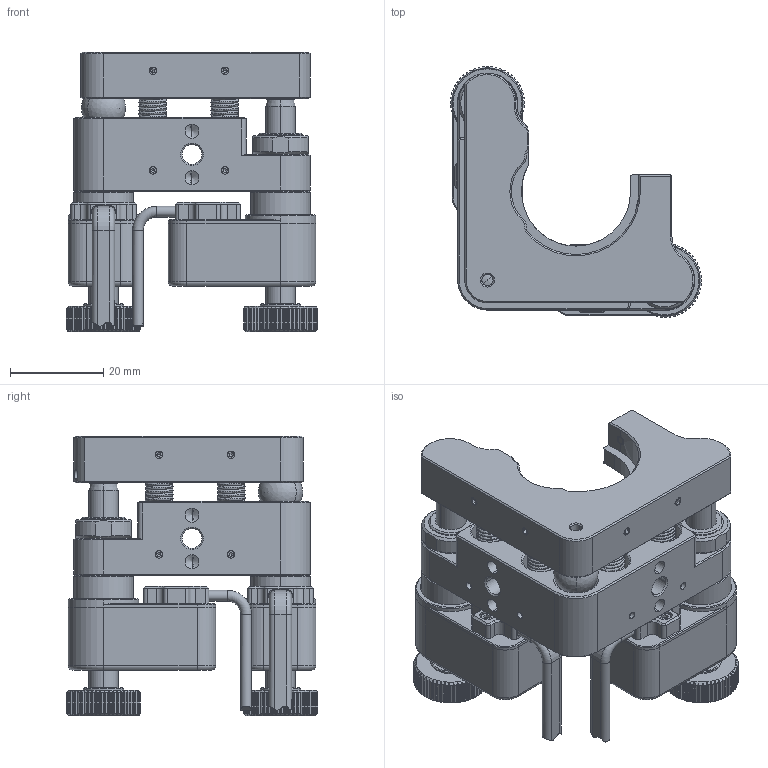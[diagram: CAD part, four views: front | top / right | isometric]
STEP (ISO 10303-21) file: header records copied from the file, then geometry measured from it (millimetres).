
FILE_DESCRIPTION (( 'STEP AP214' ), '1' );
FILE_NAME ('T25N81揤萇噩殤.STEP', '2023-12-21T03:08:42', ( 'Sky123.Org' ), ( 'Sky123.Org' ), 'SwSTEP 2.0', 'SolidWorks 2016', '' );
FILE_SCHEMA (( 'AUTOMOTIVE_DESIGN' ));
Length unit declared in the file: millimetre
Products named in the file (1): T25N81揤萇噩殤
Bounding box: 53.9 x 53.9 x 60.04 mm (x, y, z)
Volume: 34511.4 mm3; surface area: 34921.2 mm2
Topology: 53 solids, 53 shells, 2085 faces, 5212 edges, 3204 vertices
Faces by surface type: plane 856, cylinder 719, cone 396, torus 58, bspline 50, sphere 6
Entity records: 109968 total; most frequent: CARTESIAN_POINT 37978, ORIENTED_EDGE 10214, DIRECTION 9937, EDGE_CURVE 5107, AXIS2_PLACEMENT_3D 3766, VERTEX_POINT 3195, VECTOR 2405, LINE 2405
